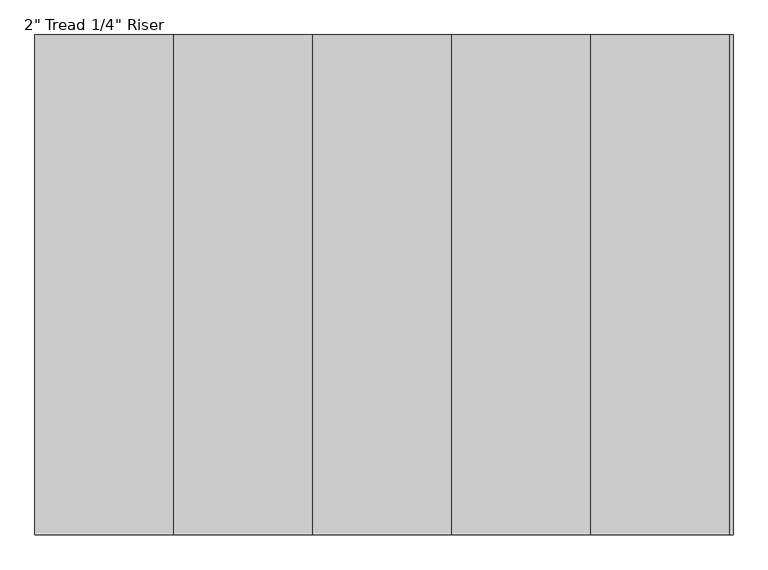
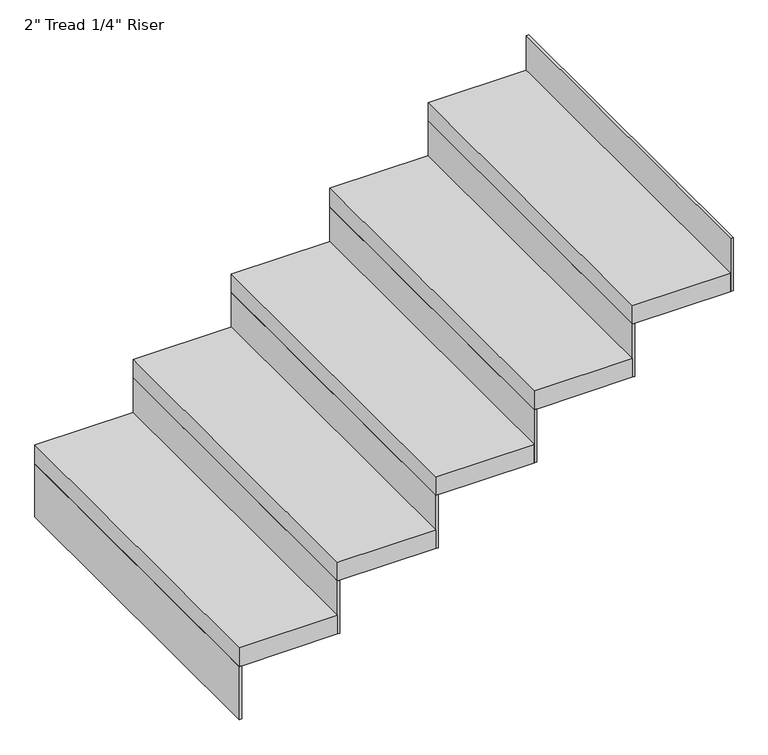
"""IFC4 building model written with IfcOpenShell, lengths in millimetres: stair flight geometry."""

from ifc_helpers import new_model, si_unit, frame, origin, place, context, project, spatial, polyline, outline, extrude, source, transform, mapped, element, save


def stair_flight_51f59bb7(model_context):
    return source(origin(), model_context, "Body", "SweptSolid", [
        extrude(outline(polyline([(89079.3548368, 15846.0395941), (89073.0048368, 15846.0395941), (89073.0048368, 16760.4395941), (89079.3548368, 16760.4395941), (89079.3548368, 15846.0395941)])), frame((0.0, 0.0, 2126.3428571), z_axis=(0.0, 0.0, 1.0), x_axis=(1.0, 0.0, 0.0)), (0.0, 0.0, 1.0), 145.1428571),
        extrude(outline(polyline([(89327.0048368, 16760.4395941), (89327.0048368, 15846.0395941), (89073.0048368, 15846.0395941), (89073.0048368, 16760.4395941), (89327.0048368, 16760.4395941)])), frame((0.0, 0.0, 2271.4857143), z_axis=(0.0, 0.0, 1.0), x_axis=(1.0, 0.0, 0.0)), (0.0, 0.0, 1.0), 50.8),
        extrude(outline(polyline([(89333.3548368, 15846.0395941), (89327.0048368, 15846.0395941), (89327.0048368, 16760.4395941), (89333.3548368, 16760.4395941), (89333.3548368, 15846.0395941)])), frame((0.0, 0.0, 2271.4857143), z_axis=(0.0, 0.0, 1.0), x_axis=(1.0, 0.0, 0.0)), (0.0, 0.0, 1.0), 145.1428571),
        extrude(outline(polyline([(89581.0048368, 16760.4395941), (89581.0048368, 15846.0395941), (89327.0048368, 15846.0395941), (89327.0048368, 16760.4395941), (89581.0048368, 16760.4395941)])), frame((0.0, 0.0, 2416.6285714), z_axis=(0.0, 0.0, 1.0), x_axis=(1.0, 0.0, 0.0)), (0.0, 0.0, 1.0), 50.8),
        extrude(outline(polyline([(89587.3548368, 15846.0395941), (89581.0048368, 15846.0395941), (89581.0048368, 16760.4395941), (89587.3548368, 16760.4395941), (89587.3548368, 15846.0395941)])), frame((0.0, 0.0, 2416.6285714), z_axis=(0.0, 0.0, 1.0), x_axis=(1.0, 0.0, 0.0)), (0.0, 0.0, 1.0), 145.1428571),
        extrude(outline(polyline([(89835.0048368, 16760.4395941), (89835.0048368, 15846.0395941), (89581.0048368, 15846.0395941), (89581.0048368, 16760.4395941), (89835.0048368, 16760.4395941)])), frame((0.0, 0.0, 2561.7714286), z_axis=(0.0, 0.0, 1.0), x_axis=(1.0, 0.0, 0.0)), (0.0, 0.0, 1.0), 50.8),
        extrude(outline(polyline([(89841.3548368, 15846.0395941), (89835.0048368, 15846.0395941), (89835.0048368, 16760.4395941), (89841.3548368, 16760.4395941), (89841.3548368, 15846.0395941)])), frame((0.0, 0.0, 2561.7714286), z_axis=(0.0, 0.0, 1.0), x_axis=(1.0, 0.0, 0.0)), (0.0, 0.0, 1.0), 145.1428571),
        extrude(outline(polyline([(90089.0048368, 16760.4395941), (90089.0048368, 15846.0395941), (89835.0048368, 15846.0395941), (89835.0048368, 16760.4395941), (90089.0048368, 16760.4395941)])), frame((0.0, 0.0, 2706.9142857), z_axis=(0.0, 0.0, 1.0), x_axis=(1.0, 0.0, 0.0)), (0.0, 0.0, 1.0), 50.8),
        extrude(outline(polyline([(90095.3548368, 15846.0395941), (90089.0048368, 15846.0395941), (90089.0048368, 16760.4395941), (90095.3548368, 16760.4395941), (90095.3548368, 15846.0395941)])), frame((0.0, 0.0, 2706.9142857), z_axis=(0.0, 0.0, 1.0), x_axis=(1.0, 0.0, 0.0)), (0.0, 0.0, 1.0), 145.1428571),
        extrude(outline(polyline([(90349.3548368, 15846.0395941), (90343.0048368, 15846.0395941), (90343.0048368, 16760.4395941), (90349.3548368, 16760.4395941), (90349.3548368, 15846.0395941)])), frame((0.0, 0.0, 2852.0571429), z_axis=(0.0, 0.0, 1.0), x_axis=(1.0, 0.0, 0.0)), (0.0, 0.0, 1.0), 145.1428571),
        extrude(outline(polyline([(90343.0048368, 16760.4395941), (90343.0048368, 15846.0395941), (90089.0048368, 15846.0395941), (90089.0048368, 16760.4395941), (90343.0048368, 16760.4395941)])), frame((0.0, 0.0, 2852.0571429), z_axis=(0.0, 0.0, 1.0), x_axis=(1.0, 0.0, 0.0)), (0.0, 0.0, 1.0), 50.8),
    ])


if __name__ == "__main__":
    model = new_model("IFC4")
    model_context = context("Model", 3, world=origin())
    ifc_project = project(units=[si_unit("LENGTHUNIT", "METRE", prefix="MILLI")], contexts=[model_context])
    site = spatial("IfcSite", under=ifc_project)
    building = spatial("IfcBuilding", under=site)
    placement = place(None, origin())
    stair_flight_shape = stair_flight_51f59bb7(model_context)
    element("IfcStairFlight", 1, ObjectType="2\" Tread 1/4\" Riser", at=placement, inside=building, context=model_context, shape_type="MappedRepresentation", body=[
        mapped(stair_flight_shape, transform((0.0, 0.0, 0.0), x_axis=(1.0, 0.0, 0.0), y_axis=(0.0, 1.0, 0.0), z_axis=(0.0, 0.0, 1.0))),
    ])
    save(model, "model.ifc")
